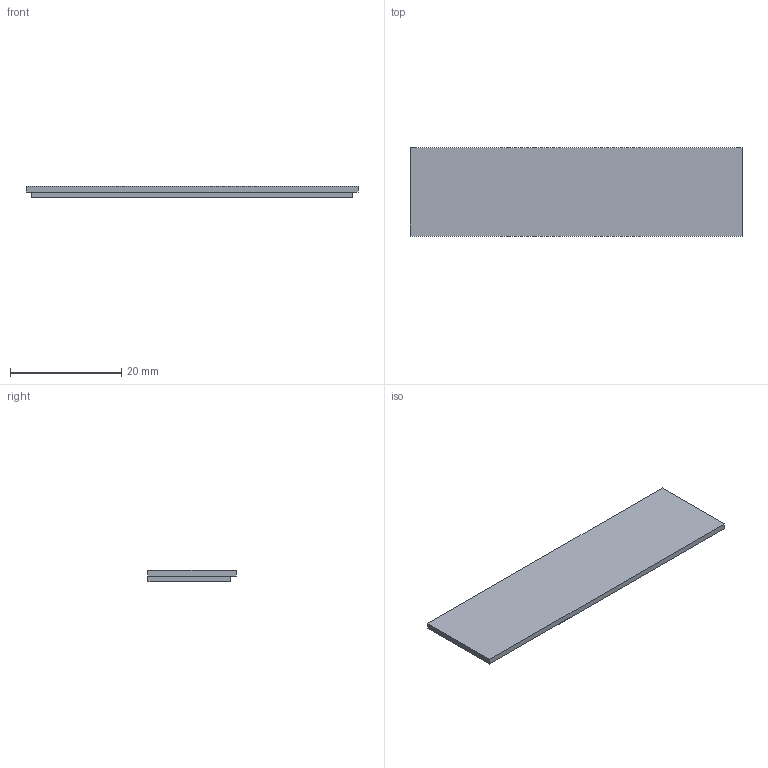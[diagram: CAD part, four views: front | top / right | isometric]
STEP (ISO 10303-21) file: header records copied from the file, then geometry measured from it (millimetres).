
FILE_DESCRIPTION(('FreeCAD Model'),'2;1');
FILE_NAME('Open CASCADE Shape Model','2026-09-06T15:19:34',('FreeCAD'),( 'FreeCAD'),'Open CASCADE STEP processor 7.8','FreeCAD','Unknown');
FILE_SCHEMA(('AUTOMOTIVE_DESIGN { 1 0 10303 214 1 1 1 1 }'));
Length unit declared in the file: millimetre
Products named in the file (1): Open CASCADE STEP translator 7.8 3
Bounding box: 59.6 x 15.8 x 2 mm (x, y, z)
Volume: 1794.2 mm3; surface area: 2179 mm2
Topology: 1 solids, 1 shells, 10 faces, 24 edges, 16 vertices
Faces by surface type: plane 10
Entity records: 298 total; most frequent: CARTESIAN_POINT 51, ORIENTED_EDGE 48, DIRECTION 46, EDGE_CURVE 24, LINE 24, VECTOR 24, VERTEX_POINT 16, AXIS2_PLACEMENT_3D 11
